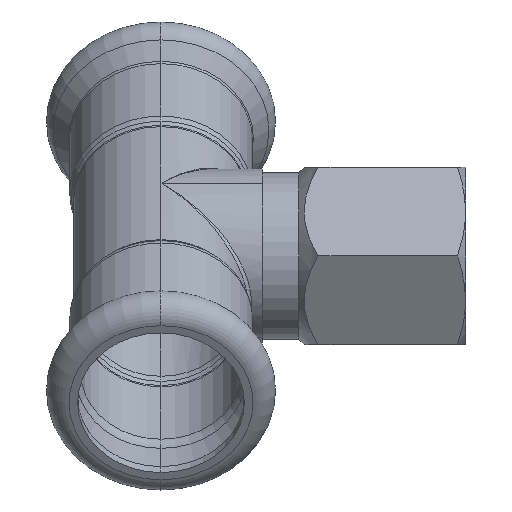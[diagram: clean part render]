
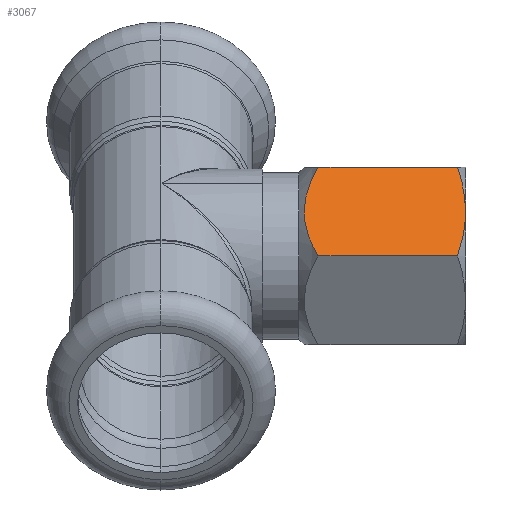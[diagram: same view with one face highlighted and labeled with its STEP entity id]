
A CAD part, left-side view. The second image highlights one B-rep face of the part: STEP entity #3067.
In plain terms, the highlighted planar face has unit normal (-0.866, 0, 0.5).
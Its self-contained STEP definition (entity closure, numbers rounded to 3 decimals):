
#69 = B_SPLINE_CURVE_WITH_KNOTS ( 'NONE', 3,
 ( #389, #929, #673, #687, #1185, #3062, #1995, #915 ),
 .UNSPECIFIED., .F., .F.,
 ( 4, 2, 2, 4 ),
 ( 0.007, 0.009, 0.011, 0.014 ),
 .UNSPECIFIED. ) ;
#82 = EDGE_CURVE ( 'NONE', #901, #1656, #69, .T. ) ;
#83 = CARTESIAN_POINT ( 'NONE',  ( -9.366, 22.015, 8.278 ) ) ;
#114 = LINE ( 'NONE', #2907, #768 ) ;
#230 = DIRECTION ( 'NONE',  ( 0., -1., 0. ) ) ;
#245 = VERTEX_POINT ( 'NONE', #1058 ) ;
#336 = CARTESIAN_POINT ( 'NONE',  ( -11.82, 22.066, 4.027 ) ) ;
#389 = CARTESIAN_POINT ( 'NONE',  ( -10.609, 0., 6.125 ) ) ;
#464 = ORIENTED_EDGE ( 'NONE', *, *, #82, .T. ) ;
#673 = CARTESIAN_POINT ( 'NONE',  ( -10.007, 0.026, 7.167 ) ) ;
#687 = CARTESIAN_POINT ( 'NONE',  ( -9.411, 0.126, 8.2 ) ) ;
#768 = VECTOR ( 'NONE', #230, 1000. ) ;
#814 = DIRECTION ( 'NONE',  ( -0.5, 0., -0.866 ) ) ;
#824 = CARTESIAN_POINT ( 'NONE',  ( -11.806, 0.104, 4.051 ) ) ;
#861 = DIRECTION ( 'NONE',  ( 0., -1., 0. ) ) ;
#901 = VERTEX_POINT ( 'NONE', #1365 ) ;
#915 = CARTESIAN_POINT ( 'NONE',  ( -7.073, 1.094, 12.25 ) ) ;
#929 = CARTESIAN_POINT ( 'NONE',  ( -10.309, 0., 6.645 ) ) ;
#1058 = CARTESIAN_POINT ( 'NONE',  ( -14.145, 20.355, 0. ) ) ;
#1085 = EDGE_CURVE ( 'NONE', #2399, #901, #3103, .T. ) ;
#1134 = ORIENTED_EDGE ( 'NONE', *, *, #1085, .T. ) ;
#1141 = CARTESIAN_POINT ( 'NONE',  ( -13.017, 21.387, 1.954 ) ) ;
#1180 = EDGE_CURVE ( 'NONE', #245, #2399, #2174, .T. ) ;
#1185 = CARTESIAN_POINT ( 'NONE',  ( -9.115, 0.2, 8.713 ) ) ;
#1214 = ORIENTED_EDGE ( 'NONE', *, *, #2432, .F. ) ;
#1333 = PLANE ( 'NONE',  #3204 ) ;
#1365 = CARTESIAN_POINT ( 'NONE',  ( -10.609, 0., 6.125 ) ) ;
#1399 = ORIENTED_EDGE ( 'NONE', *, *, #1180, .T. ) ;
#1422 = CARTESIAN_POINT ( 'NONE',  ( -9.974, 22.199, 7.225 ) ) ;
#1632 = EDGE_LOOP ( 'NONE', ( #1214, #2048, #1399, #1134, #464 ) ) ;
#1634 = FACE_OUTER_BOUND ( 'NONE', #1632, .T. ) ;
#1656 = VERTEX_POINT ( 'NONE', #2368 ) ;
#1706 = CARTESIAN_POINT ( 'NONE',  ( -13.589, 20.911, 0.963 ) ) ;
#1959 = CARTESIAN_POINT ( 'NONE',  ( -8.19, 21.377, 10.314 ) ) ;
#1995 = CARTESIAN_POINT ( 'NONE',  ( -7.65, 0.761, 11.251 ) ) ;
#2048 = ORIENTED_EDGE ( 'NONE', *, *, #2690, .T. ) ;
#2157 = CARTESIAN_POINT ( 'NONE',  ( -12.984, 0.485, 2.011 ) ) ;
#2174 = LINE ( 'NONE', #2459, #3244 ) ;
#2192 = CARTESIAN_POINT ( 'NONE',  ( -11.213, 22.253, 5.078 ) ) ;
#2200 = CARTESIAN_POINT ( 'NONE',  ( -7.625, 20.908, 11.293 ) ) ;
#2212 = CARTESIAN_POINT ( 'NONE',  ( -14.145, 20.355, 0. ) ) ;
#2368 = CARTESIAN_POINT ( 'NONE',  ( -7.073, 1.094, 12.25 ) ) ;
#2399 = VERTEX_POINT ( 'NONE', #2585 ) ;
#2415 = CARTESIAN_POINT ( 'NONE',  ( -14.145, 1.094, 0. ) ) ;
#2416 = CARTESIAN_POINT ( 'NONE',  ( -14.145, 28., 0. ) ) ;
#2432 = EDGE_CURVE ( 'NONE', #3218, #1656, #114, .T. ) ;
#2442 = CARTESIAN_POINT ( 'NONE',  ( -10.609, 0., 6.125 ) ) ;
#2459 = CARTESIAN_POINT ( 'NONE',  ( -14.145, 28., 0. ) ) ;
#2494 = CARTESIAN_POINT ( 'NONE',  ( -7.073, 20.355, 12.25 ) ) ;
#2585 = CARTESIAN_POINT ( 'NONE',  ( -14.145, 1.094, 0. ) ) ;
#2690 = EDGE_CURVE ( 'NONE', #3218, #245, #2845, .T. ) ;
#2713 = CARTESIAN_POINT ( 'NONE',  ( -7.073, 20.355, 12.25 ) ) ;
#2845 = B_SPLINE_CURVE_WITH_KNOTS ( 'NONE', 3,
 ( #2494, #2200, #1959, #3055, #83, #1422, #3301, #2192, #336, #1141, #1706, #2212 ),
 .UNSPECIFIED., .F., .F.,
 ( 4, 2, 2, 2, 2, 4 ),
 ( 0., 0.004, 0.005, 0.007, 0.011, 0.015 ),
 .UNSPECIFIED. ) ;
#2907 = CARTESIAN_POINT ( 'NONE',  ( -7.073, 28., 12.25 ) ) ;
#2959 = DIRECTION ( 'NONE',  ( 0.866, 0., -0.5 ) ) ;
#2975 = CARTESIAN_POINT ( 'NONE',  ( -13.567, 0.76, 1.002 ) ) ;
#3055 = CARTESIAN_POINT ( 'NONE',  ( -9.068, 21.881, 8.794 ) ) ;
#3062 = CARTESIAN_POINT ( 'NONE',  ( -8.231, 0.486, 10.243 ) ) ;
#3067 = ADVANCED_FACE ( 'NONE', ( #1634 ), #1333, .F. ) ;
#3103 = B_SPLINE_CURVE_WITH_KNOTS ( 'NONE', 3,
 ( #2415, #2975, #2157, #824, #3248, #2442 ),
 .UNSPECIFIED., .F., .F.,
 ( 4, 2, 4 ),
 ( 0., 0.004, 0.007 ),
 .UNSPECIFIED. ) ;
#3204 = AXIS2_PLACEMENT_3D ( 'NONE', #2416, #2959, #814 ) ;
#3218 = VERTEX_POINT ( 'NONE', #2713 ) ;
#3244 = VECTOR ( 'NONE', #861, 1000. ) ;
#3248 = CARTESIAN_POINT ( 'NONE',  ( -11.211, 0., 5.081 ) ) ;
#3301 = CARTESIAN_POINT ( 'NONE',  ( -10.287, 22.249, 6.682 ) ) ;
